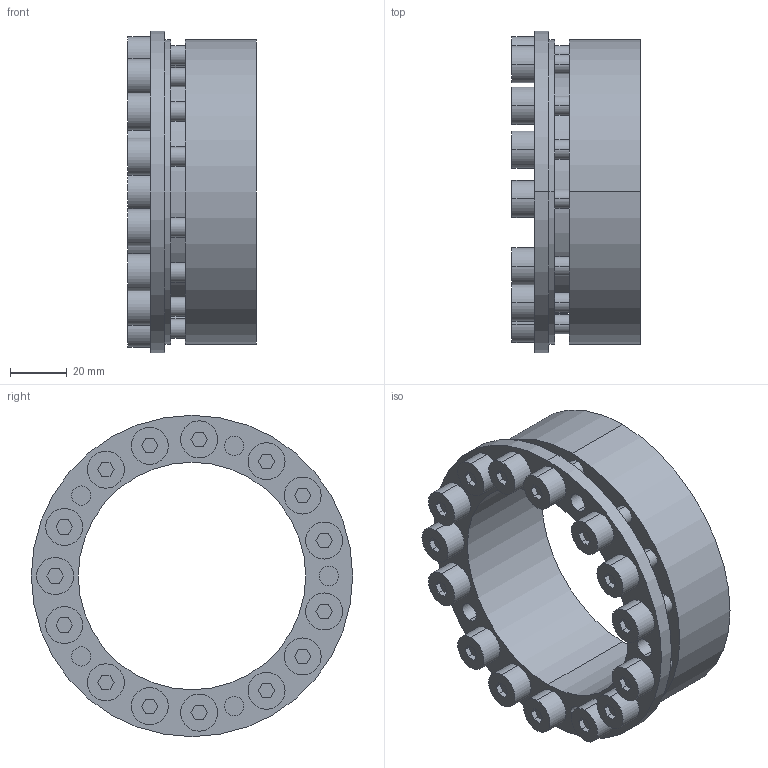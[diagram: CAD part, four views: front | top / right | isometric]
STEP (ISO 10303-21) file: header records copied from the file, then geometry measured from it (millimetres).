
FILE_DESCRIPTION (( 'STEP AP203' ), '1' );
FILE_NAME ('SMA-80.STEP', '2009-09-29T17:29:43', ( 'USER' ), ( 'HOME' ), 'SwSTEP 2.0', 'SolidWorks 2007', '' );
FILE_SCHEMA (( 'CONFIG_CONTROL_DESIGN' ));
Length unit declared in the file: millimetre
Products named in the file (1): SMA-80
Bounding box: 45.1 x 113 x 113 mm (x, y, z)
Volume: 142990 mm3; surface area: 62397.4 mm2
Topology: 16 solids, 16 shells, 295 faces, 690 edges, 460 vertices
Faces by surface type: plane 155, cylinder 140
Entity records: 8715 total; most frequent: DIRECTION 1562, CARTESIAN_POINT 1446, ORIENTED_EDGE 1380, EDGE_CURVE 690, AXIS2_PLACEMENT_3D 576, VERTEX_POINT 460, VECTOR 410, LINE 410
